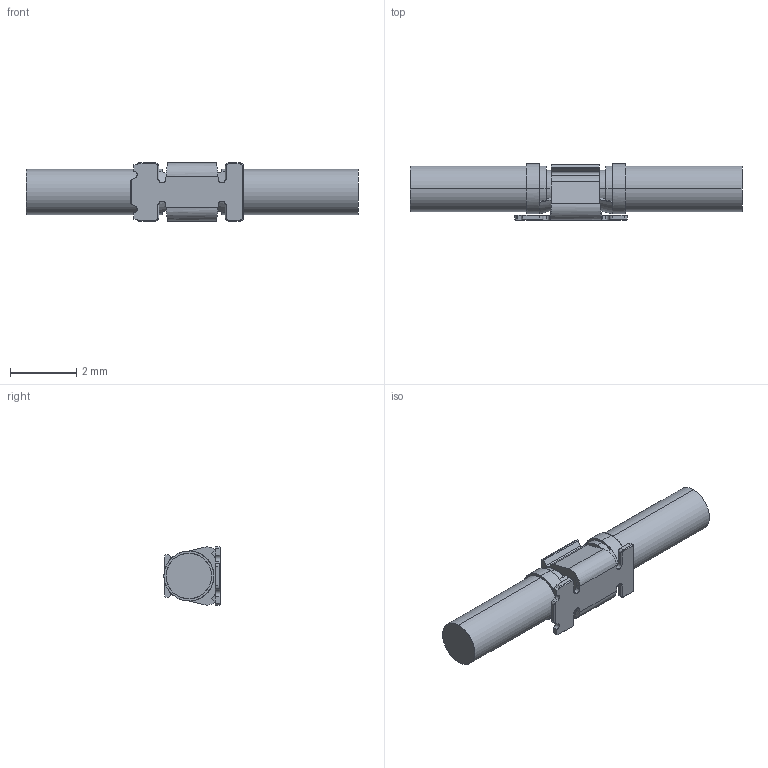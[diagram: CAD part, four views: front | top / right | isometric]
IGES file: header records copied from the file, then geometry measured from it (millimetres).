
Start section: SolidWorks IGES file using analytic representation for surfaces
Global section: file name: C:\3dwork\今地\MP-A series 3D 2D data\IGES\3224P MP-A04 IGES R0 ALL.IGS,1; native system: 5HSolidWorks 2014; preprocessor: SolidWorks 2014; author: 3dcad; date: 170703.201107; units: millimetre
Bounding box: 10 x 1.69 x 1.75 mm (x, y, z)
Surface area: 60.7 mm2 (no closed solid volume)
Topology: 0 solids, 0 shells, 140 faces, 1107 edges, 1107 vertices
Faces by surface type: bspline 86, revolution 54
